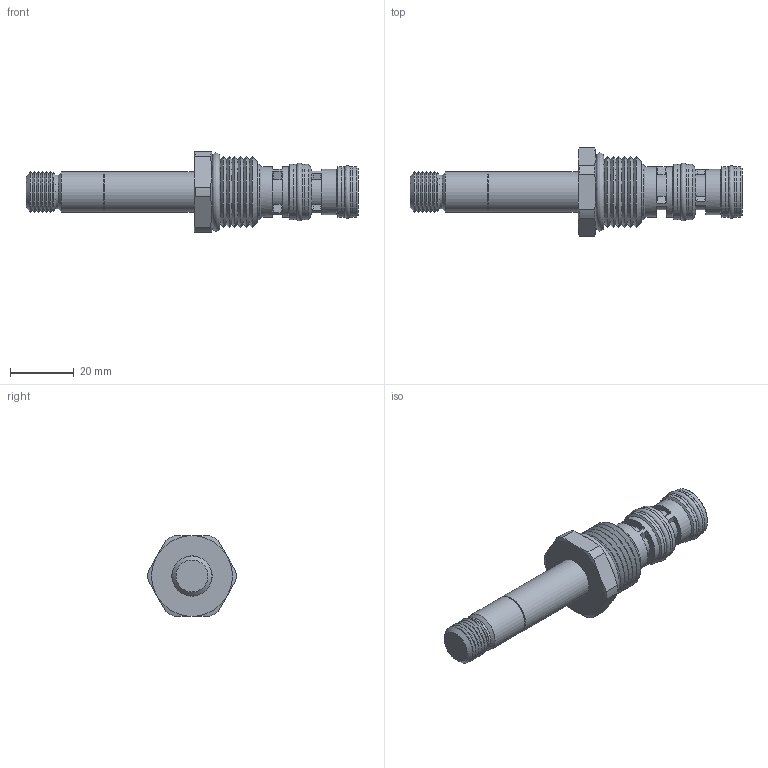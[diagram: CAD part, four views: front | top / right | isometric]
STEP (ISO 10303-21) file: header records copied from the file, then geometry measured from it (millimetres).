
FILE_DESCRIPTION((''),'2;1');
FILE_NAME('Q:\Solid model CD\Solid model full\Solenoid\STEP\DFS3B00-3D Full.stp','2009-06-01T09:25:42',('Dan'),(''),'Autodesk Inventor 2009','Autodesk Inventor 2009','');
FILE_SCHEMA(('AUTOMOTIVE_DESIGN { 1 0 10303 214 1 1 1 1 }'));
Length unit declared in the file: inch
Products named in the file (9): DFS3B00-3D Full; DFS3B00-3D Full1; DFS3B00-3D Full2; DFS3B00-3D Full3; DFS3B00-3D Full4; DFS3B00-3D Full5; DFS3B00-3D Full6; DFS3B00-3D Full7; DFS3B00-3D Full8
Assembly tree (8 placements, depth 2):
  DFS3B00-3D Full
    DFS3B00-3D Full1
    DFS3B00-3D Full2
    DFS3B00-3D Full3
    DFS3B00-3D Full4
    DFS3B00-3D Full5
    DFS3B00-3D Full6
    DFS3B00-3D Full7
    DFS3B00-3D Full8
Bounding box: 104.41 x 27.74 x 25.4 mm (x, y, z)
Volume: 19742.5 mm3; surface area: 9331.8 mm2
Topology: 8 solids, 8 shells, 164 faces, 361 edges, 222 vertices
Faces by surface type: bspline 134, cone 16, cylinder 10, plane 4
Full cylindrical faces by diameter (mm): 10.668 x1, 10.998 x1, 12.586 x1, 12.675 x1
Entity records: 6371 total; most frequent: CARTESIAN_POINT 3298, ORIENTED_EDGE 582, DIRECTION 484, EDGE_CURVE 291, EDGE_LOOP 251, AXIS2_PLACEMENT_3D 224, VERTEX_POINT 216, CIRCLE 177
